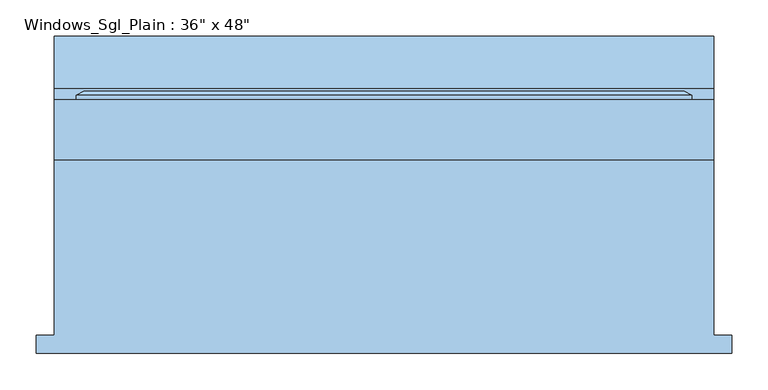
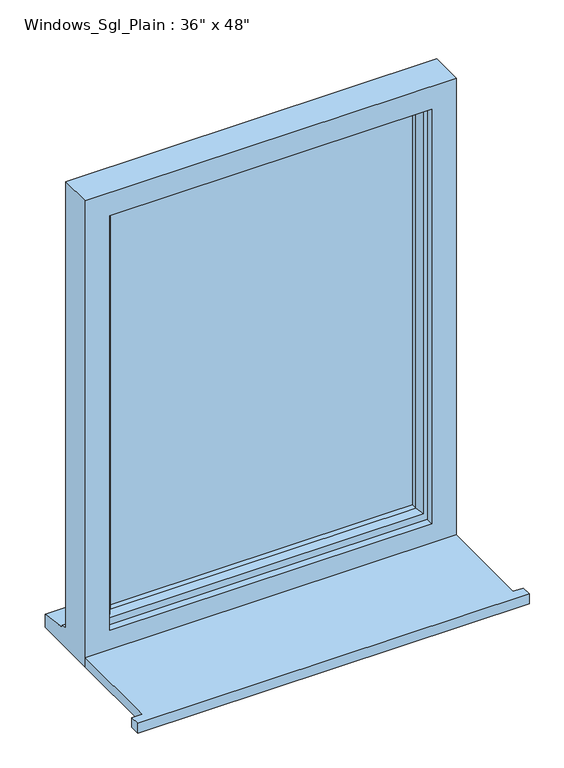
"""IFC4 building model written with IfcOpenShell, lengths in millimetres: window geometry."""

from ifc_helpers import new_model, si_unit, frame, origin, place, context, project, spatial, polyline, outline, extrude, faceted_brep, source, transform, mapped, element, save


def window_397b8217(model_context):
    return source(origin(), model_context, "Body", "SolidModel", [
        extrude(outline(polyline([(-480.0, -204.0434322), (-480.0, -179.0434322), (-455.0, -179.0434322), (-455.0, 62.9565678), (455.0, 62.9565678), (455.0, -179.0434322), (480.0, -179.0434322), (480.0, -204.0434322), (-480.0, -204.0434322)])), frame((0.0, 0.0, 900.0), z_axis=(0.0, 0.0, 1.0), x_axis=(1.0, 0.0, 0.0)), (0.0, 0.0, 1.0), 25.0),
        faceted_brep([(-455.0, 62.9565678, 900.0), (455.0, 62.9565678, 900.0), (455.0, 62.9565678, 2110.0), (-455.0, 62.9565678, 2110.0), (-395.0, 62.9565678, 2050.0), (395.0, 62.9565678, 2050.0), (395.0, 62.9565678, 975.0), (-395.0, 62.9565678, 975.0), (-455.0, 145.9565678, 2110.0), (-455.0, 145.9565678, 951.0), (-455.0, 160.9565678, 949.68767), (-455.0, 160.9565678, 944.7449676), (-455.0, 233.4565678, 933.8088847), (-455.0, 233.4565678, 900.0), (455.0, 145.9565678, 2110.0), (455.0, 145.9565678, 951.0), (-415.0, 145.9565678, 2070.0), (-415.0, 145.9565678, 963.0), (415.0, 145.9565678, 963.0), (415.0, 145.9565678, 2070.0), (-415.0, 80.9565678, 2070.0), (-415.0, 80.9565678, 963.0), (415.0, 80.9565678, 2070.0), (415.0, 80.9565678, 963.0), (-395.0, 80.9565678, 2050.0), (-395.0, 80.9565678, 975.0), (395.0, 80.9565678, 975.0), (395.0, 80.9565678, 2050.0), (455.0, 233.4565678, 900.0), (455.0, 233.4565678, 933.8088847), (455.0, 160.9565678, 944.7449676), (455.0, 160.9565678, 949.68767)], [[[0, 1, 2, 3], [4, 5, 6, 7]], [[0, 3, 8, 9, 10, 11, 12, 13]], [[9, 8, 14, 15], [16, 17, 18, 19]], [[17, 16, 20, 21]], [[20, 22, 23, 21], [24, 25, 26, 27]], [[24, 4, 7, 25]], [[3, 2, 14, 8]], [[16, 19, 22, 20]], [[5, 4, 24, 27]], [[15, 14, 2, 1, 28, 29, 30, 31]], [[19, 18, 23, 22]], [[5, 27, 26, 6]], [[28, 1, 0, 13]], [[29, 28, 13, 12]], [[30, 29, 12, 11]], [[31, 30, 11, 10]], [[15, 31, 10, 9]], [[21, 23, 18, 17]], [[7, 6, 26, 25]]]),
        extrude(outline(polyline([(385.0, 109.9565678), (-385.0, 109.9565678), (-385.0, 133.9565678), (385.0, 133.9565678), (385.0, 109.9565678)])), frame((0.0, 0.0, 993.0), z_axis=(0.0, 0.0, 1.0), x_axis=(1.0, 0.0, 0.0)), (0.0, 0.0, 1.0), 1047.0),
        faceted_brep([(-425.0, 145.9565678, 2080.0), (-425.0, 151.7300705, 2080.0), (-425.0, 151.7300705, 953.0), (-425.0, 145.9565678, 953.0), (-415.0, 80.9565678, 2070.0), (-415.0, 145.9565678, 2070.0), (-415.0, 145.9565678, 963.0), (-415.0, 80.9565678, 963.0), (-375.0, 95.4494677, 2030.0), (-385.1480377, 80.9565678, 2040.1480377), (-385.1480377, 80.9565678, 992.8519623), (-375.0, 95.4494677, 1003.0), (-375.0, 109.9565678, 2030.0), (-375.0, 109.9565678, 1003.0), (-385.0, 133.9565678, 2040.0), (-385.0, 109.9565678, 2040.0), (-385.0, 109.9565678, 993.0), (-385.0, 133.9565678, 993.0), (-375.0, 151.7300705, 2030.0), (-375.0, 133.9565678, 2030.0), (-375.0, 133.9565678, 1003.0), (-375.0, 151.7300705, 1003.0), (-392.4457548, 157.5035732, 2047.4457548), (-392.4457548, 157.5035732, 985.5542452), (-414.2153903, 157.5035732, 2069.2153903), (-414.2153903, 157.5035732, 963.7846097), (425.0, 151.7300705, 953.0), (425.0, 145.9565678, 953.0), (415.0, 145.9565678, 963.0), (415.0, 80.9565678, 963.0), (385.1480377, 80.9565678, 992.8519623), (375.0, 95.4494677, 1003.0), (375.0, 109.9565678, 1003.0), (385.0, 109.9565678, 993.0), (385.0, 133.9565678, 993.0), (375.0, 133.9565678, 1003.0), (375.0, 151.7300705, 1003.0), (392.4457548, 157.5035732, 985.5542452), (414.2153903, 157.5035732, 963.7846097), (425.0, 151.7300705, 2080.0), (425.0, 145.9565678, 2080.0), (415.0, 145.9565678, 2070.0), (415.0, 80.9565678, 2070.0), (385.1480377, 80.9565678, 2040.1480377), (375.0, 95.4494677, 2030.0), (375.0, 109.9565678, 2030.0), (385.0, 109.9565678, 2040.0), (385.0, 133.9565678, 2040.0), (375.0, 133.9565678, 2030.0), (375.0, 151.7300705, 2030.0), (392.4457548, 157.5035732, 2047.4457548), (414.2153903, 157.5035732, 2069.2153903)], [[[0, 1, 2, 3]], [[4, 5, 6, 7]], [[8, 9, 10, 11]], [[12, 8, 11, 13]], [[14, 15, 16, 17]], [[18, 19, 20, 21]], [[22, 18, 21, 23]], [[1, 24, 25, 2]], [[3, 2, 26, 27]], [[7, 6, 28, 29]], [[11, 10, 30, 31]], [[13, 11, 31, 32]], [[17, 16, 33, 34]], [[21, 20, 35, 36]], [[23, 21, 36, 37]], [[2, 25, 38, 26]], [[27, 26, 39, 40]], [[29, 28, 41, 42]], [[31, 30, 43, 44]], [[32, 31, 44, 45]], [[34, 33, 46, 47]], [[36, 35, 48, 49]], [[37, 36, 49, 50]], [[26, 38, 51, 39]], [[40, 39, 1, 0]], [[3, 27, 40, 0], [5, 41, 28, 6]], [[42, 41, 5, 4]], [[7, 29, 42, 4], [9, 43, 30, 10]], [[44, 43, 9, 8]], [[45, 44, 8, 12]], [[15, 46, 33, 16], [13, 32, 45, 12]], [[47, 46, 15, 14]], [[17, 34, 47, 14], [19, 48, 35, 20]], [[49, 48, 19, 18]], [[50, 49, 18, 22]], [[24, 51, 38, 25], [23, 37, 50, 22]], [[39, 51, 24, 1]]]),
    ])


if __name__ == "__main__":
    model = new_model("IFC4")
    model_context = context("Model", 3, world=origin())
    ifc_project = project(units=[si_unit("LENGTHUNIT", "METRE", prefix="MILLI")], contexts=[model_context])
    site = spatial("IfcSite", under=ifc_project)
    building = spatial("IfcBuilding", under=site)
    placement = place(None, origin())
    window_shape = window_397b8217(model_context)
    element("IfcWindow", 1, ObjectType="Windows_Sgl_Plain : 36\" x 48\"", at=placement, inside=building, context=model_context, shape_type="MappedRepresentation", body=[
        mapped(window_shape, transform((0.0, 0.0, 0.0), x_axis=(1.0, 0.0, 0.0), y_axis=(0.0, 1.0, 0.0), z_axis=(0.0, 0.0, 1.0))),
    ])
    save(model, "model.ifc")
